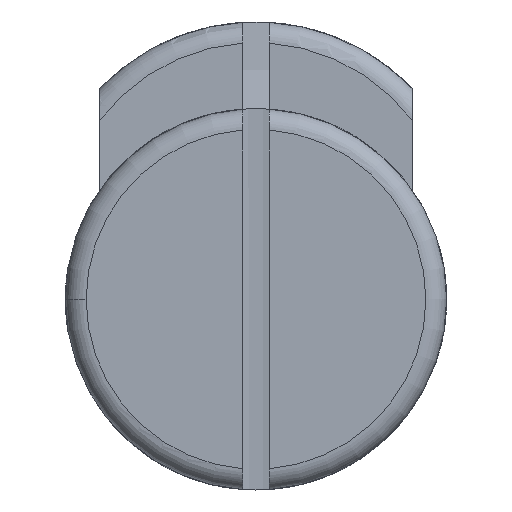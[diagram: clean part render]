
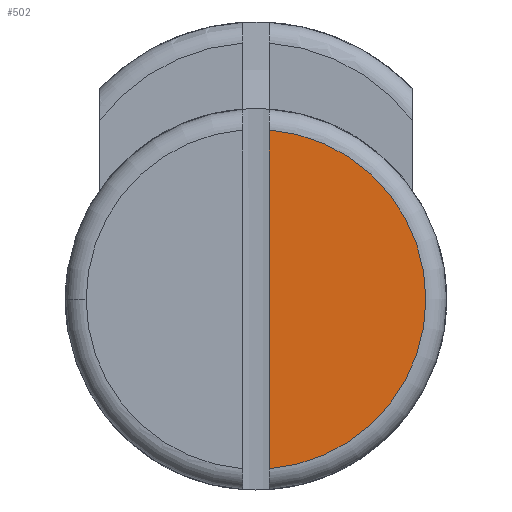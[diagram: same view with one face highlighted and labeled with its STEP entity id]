
A CAD part, front view. The second image highlights one B-rep face of the part: STEP entity #502.
In plain terms, the highlighted planar face has unit normal (0, -1, 0).
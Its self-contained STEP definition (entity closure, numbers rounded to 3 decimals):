
#72 = DIRECTION ( 'NONE',  ( 0., 0., 1. ) ) ;
#171 = EDGE_CURVE ( 'NONE', #2772, #1732, #1190, .T. ) ;
#191 = FACE_OUTER_BOUND ( 'NONE', #2908, .T. ) ;
#502 = ADVANCED_FACE ( 'NONE', ( #191 ), #1102, .T. ) ;
#536 = DIRECTION ( 'NONE',  ( 0., -1., 0. ) ) ;
#591 = DIRECTION ( 'NONE',  ( 0., 1., 0. ) ) ;
#697 = AXIS2_PLACEMENT_3D ( 'NONE', #2279, #536, #1366 ) ;
#815 = EDGE_CURVE ( 'NONE', #1732, #2772, #2717, .T. ) ;
#935 = ORIENTED_EDGE ( 'NONE', *, *, #815, .F. ) ;
#1102 = PLANE ( 'NONE',  #697 ) ;
#1190 = CIRCLE ( 'NONE', #2374, 9.8 ) ;
#1194 = DIRECTION ( 'NONE',  ( -1., 0., 0. ) ) ;
#1366 = DIRECTION ( 'NONE',  ( 1., 0., 0. ) ) ;
#1512 = ORIENTED_EDGE ( 'NONE', *, *, #171, .F. ) ;
#1551 = CARTESIAN_POINT ( 'NONE',  ( 0.75, -1.16, 13.47 ) ) ;
#1591 = CARTESIAN_POINT ( 'NONE',  ( 0.75, -1.16, 9.771 ) ) ;
#1732 = VERTEX_POINT ( 'NONE', #3228 ) ;
#2279 = CARTESIAN_POINT ( 'NONE',  ( -9.8, -1.16, 0. ) ) ;
#2374 = AXIS2_PLACEMENT_3D ( 'NONE', #2688, #591, #1194 ) ;
#2498 = VECTOR ( 'NONE', #72, 1000. ) ;
#2688 = CARTESIAN_POINT ( 'NONE',  ( 0., -1.16, 0. ) ) ;
#2717 = LINE ( 'NONE', #1551, #2498 ) ;
#2772 = VERTEX_POINT ( 'NONE', #1591 ) ;
#2908 = EDGE_LOOP ( 'NONE', ( #935, #1512 ) ) ;
#3228 = CARTESIAN_POINT ( 'NONE',  ( 0.75, -1.16, -9.771 ) ) ;
